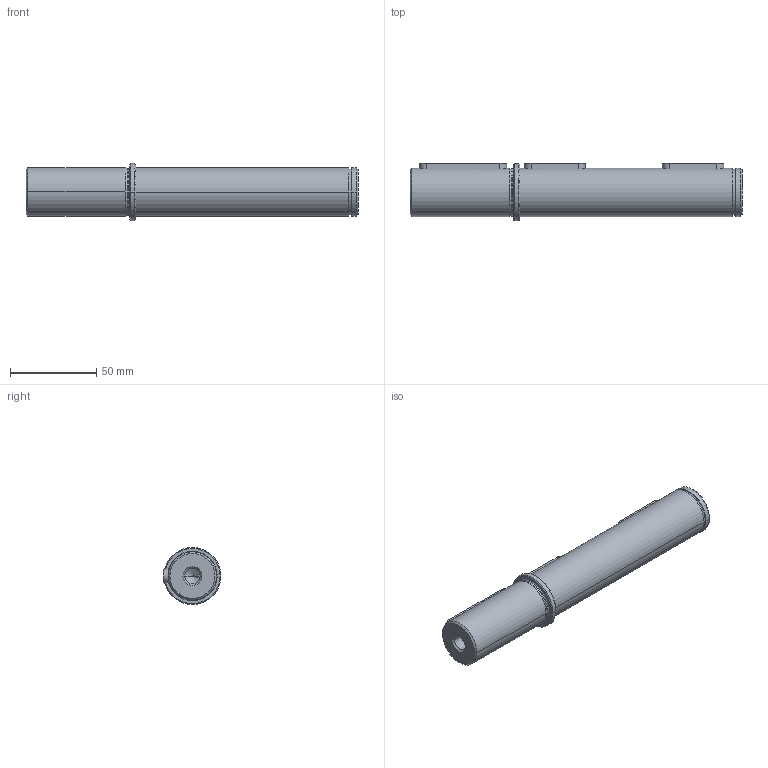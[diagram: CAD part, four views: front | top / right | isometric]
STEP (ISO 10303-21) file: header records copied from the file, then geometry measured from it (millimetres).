
FILE_DESCRIPTION((''),'2;1');
FILE_NAME('SOSB75','2013-09-10T',('tecnicocad'),(''),'PRO/ENGINEER BY PARAMETRIC TECHNOLOGY CORPORATION, 2011490','PRO/ENGINEER BY PARAMETRIC TECHNOLOGY CORPORATION, 2011490','');
FILE_SCHEMA(('CONFIG_CONTROL_DESIGN'));
Length unit declared in the file: millimetre
Products named in the file (1): SOSB75
Bounding box: 192 x 33.5 x 33 mm (x, y, z)
Volume: 119575.4 mm3; surface area: 20500.4 mm2
Topology: 1 solids, 1 shells, 51 faces, 126 edges, 80 vertices
Faces by surface type: cylinder 20, plane 15, cone 14, torus 2
Entity records: 1618 total; most frequent: CARTESIAN_POINT 348, DIRECTION 271, ORIENTED_EDGE 248, EDGE_CURVE 124, AXIS2_PLACEMENT_3D 108, VERTEX_POINT 80, CIRCLE 57, EDGE_LOOP 56
